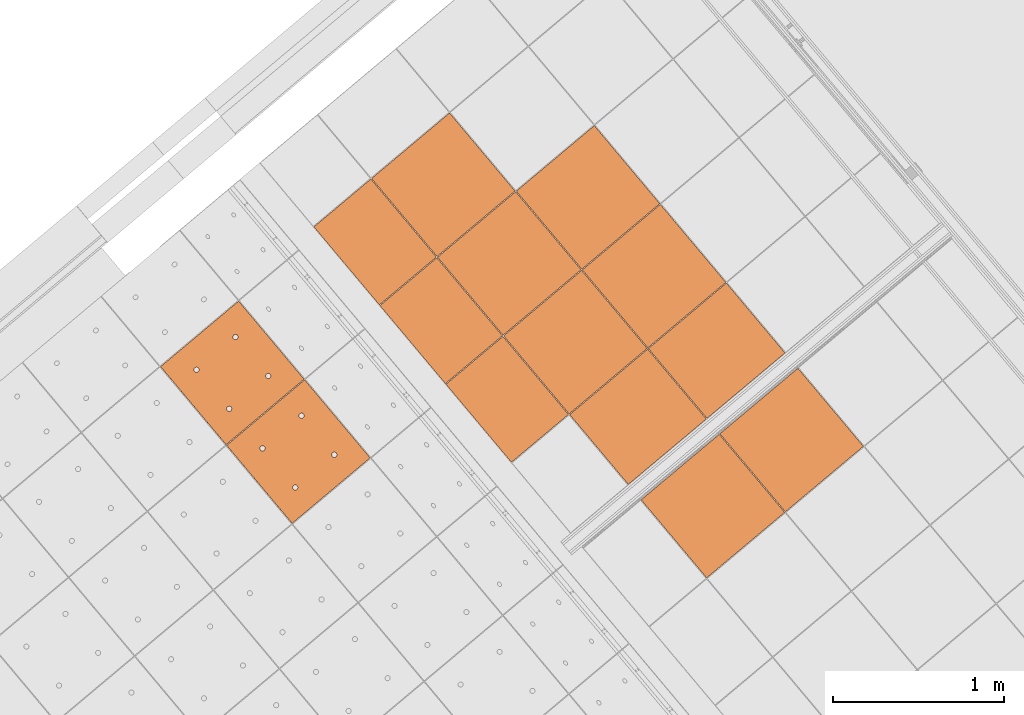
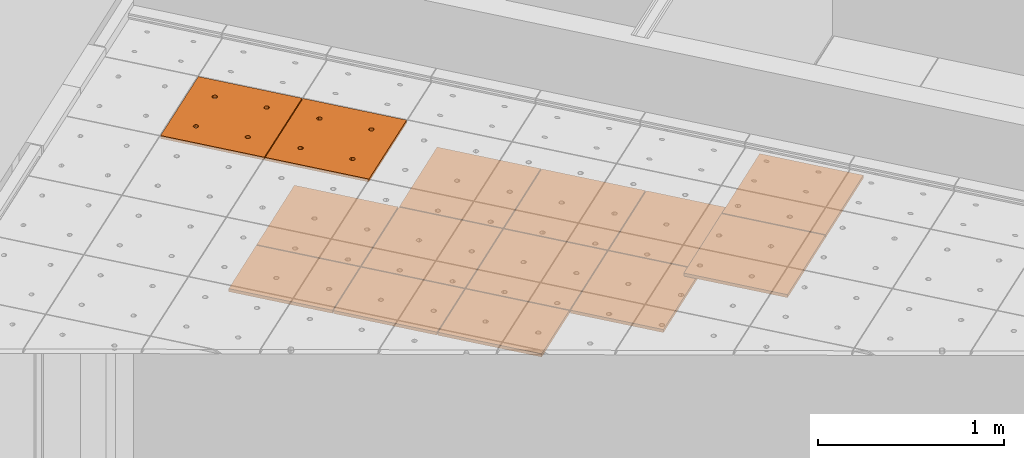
# One storey, part 178 of 338: 14 proxies, 3 elements without a shape of their own.
"""IFC2X3 building model written with IfcOpenShell, lengths in millimetres."""

from ifc_helpers import new_model, entity, si_unit, converted_unit, derived_unit, money_unit, direction, frame, origin_with_axes, place, context, subcontext, project, spatial, faceted_brep, source, transform, mapped, material, type_object, type_shapes, element, aggregate, save


model = new_model("IFC2X3")

# Units and contexts
model_context = context("Model", 3, precision=0.01, world=origin_with_axes(), true_north=direction((0.0, 1.0)))
plan_context = context("Plan", 3, precision=0.01, world=origin_with_axes(), true_north=direction((0.0, 1.0)))
body_context = subcontext(model_context, "Body", "Model", "MODEL_VIEW")
ifc_project = project(units=[si_unit("LENGTHUNIT", "METRE", prefix="MILLI"), si_unit("AREAUNIT", "SQUARE_METRE"), si_unit("VOLUMEUNIT", "CUBIC_METRE"), converted_unit("PLANEANGLEUNIT", "DEGREE", entity("IfcPlaneAngleMeasure", 0.0174532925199), si_unit("PLANEANGLEUNIT", "RADIAN"), dimensions=[0, 0, 0, 0, 0, 0, 0]), money_unit("EUR"), converted_unit("TIMEUNIT", "Year", entity("IfcTimeMeasure", 31556926.0), si_unit("TIMEUNIT", "SECOND"), dimensions=[0, 0, 1, 0, 0, 0, 0]), si_unit("MASSUNIT", "GRAM", prefix="KILO"), si_unit("THERMODYNAMICTEMPERATUREUNIT", "DEGREE_CELSIUS"), si_unit("LUMINOUSINTENSITYUNIT", "LUMEN"), si_unit("ENERGYUNIT", "JOULE", prefix="MEGA"), derived_unit("THERMALCONDUCTANCEUNIT", [(si_unit("POWERUNIT", "WATT"), 1), (si_unit("LENGTHUNIT", "METRE"), -1), (si_unit("THERMODYNAMICTEMPERATUREUNIT", "KELVIN"), -1)]), derived_unit("SPECIFICHEATCAPACITYUNIT", [(si_unit("ENERGYUNIT", "JOULE"), 1), (si_unit("MASSUNIT", "GRAM", prefix="KILO"), -1), (si_unit("THERMODYNAMICTEMPERATUREUNIT", "KELVIN"), -1)]), derived_unit("MASSDENSITYUNIT", [(si_unit("MASSUNIT", "GRAM", prefix="KILO"), 1), (si_unit("VOLUMEUNIT", "CUBIC_METRE"), -1)])], contexts=[model_context, plan_context])

# Site, building, storey
site_placement = place(None, origin_with_axes())
site = spatial("IfcSite", under=ifc_project, at=site_placement, Name="Fortuinstraat Woensdrecht", CompositionType="ELEMENT")
building_placement = place(site_placement, origin_with_axes())
building = spatial("IfcBuilding", under=site, at=building_placement, Name="IKC Fortuna", CompositionType="ELEMENT")
storey_placement = place(building_placement, origin_with_axes())
storey = spatial("IfcBuildingStorey", under=building, at=storey_placement, Name="00 begane grond", CompositionType="ELEMENT", Elevation=0.0)

# Covering, proxies
covering_type = type_object("IfcCoveringType", Name="Curtain Wall Type", PredefinedType="CEILING")
covering_1_placement = place(storey_placement, frame((13600.915258, 7795.68497331, 2810.0), z_axis=(0.0, 0.0, 1.0), x_axis=(1.0, 0.0, 0.0)))
covering_1 = element("IfcCovering", 1, at=covering_1_placement, inside=storey, type_object=covering_type, Name="45_Plafondafwerking_P02 gec", PredefinedType="CEILING")
ifc_material = material(Name="Gipsplaat")
building_element_proxy_type_1 = type_object("IfcBuildingElementProxyType", Name="Distinct Panel 600 x 600 x 20", PredefinedType="NOTDEFINED")
shared_shape_1 = source(origin_with_axes(), body_context, "Body", "Brep", [
    faceted_brep([(-597.499994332, 2.50000201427, -10.0), (-597.499994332, 2.50000201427, 10.0), (-597.499997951, 597.499994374, 10.0), (-597.499997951, 597.499994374, -10.0), (-2.50001005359, 2.49999600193, -10.0), (-2.50001005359, 2.49999600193, 10.0), (-2.49999596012, 597.499989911, 10.0), (-2.49999596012, 597.499989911, -10.0)], [[[0, 1, 2, 3]], [[4, 5, 1, 0]], [[1, 5, 6, 2]], [[3, 2, 6, 7]], [[0, 3, 7, 4]], [[7, 6, 5, 4]]]),
])
proxy_1_placement = place(covering_1_placement, frame((492.200975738, 1155.63411581, 0.0), z_axis=(0.0, 0.0, 1.0), x_axis=(1.0, 0.0, 0.0)))
proxy_1 = element("IfcBuildingElementProxy", 2, at=proxy_1_placement, type_object=building_element_proxy_type_1, material=ifc_material, Name="__Panel-D", context=body_context, shape_type="MappedRepresentation", body=[
    mapped(shared_shape_1, transform((-422.649621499, 36.9769853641, 0.0), x_axis=(-0.766044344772, -0.642787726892, 0.0), y_axis=(0.642787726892, -0.766044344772, 0.0), z_axis=(0.0, 0.0, 1.0))),
])
proxy_2_placement = place(covering_1_placement, frame((-353.09826726, 1229.58808654, 0.0), z_axis=(0.0, 0.0, 1.0), x_axis=(1.0, 0.0, 0.0)))
proxy_2 = element("IfcBuildingElementProxy", 3, at=proxy_2_placement, type_object=building_element_proxy_type_1, material=ifc_material, Name="__Panel-D", context=body_context, shape_type="MappedRepresentation", body=[
    mapped(shared_shape_1, transform((-422.649621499, 36.9769853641, 0.0), x_axis=(-0.766044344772, -0.642787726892, 0.0), y_axis=(0.642787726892, -0.766044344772, 0.0), z_axis=(0.0, 0.0, 1.0))),
])
proxy_3_placement = place(covering_1_placement, frame((-738.770903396, 1689.2146934, 0.0), z_axis=(0.0, 0.0, 1.0), x_axis=(1.0, 0.0, 0.0)))
proxy_3 = element("IfcBuildingElementProxy", 4, at=proxy_3_placement, type_object=building_element_proxy_type_1, material=ifc_material, Name="__Panel-D", context=body_context, shape_type="MappedRepresentation", body=[
    mapped(shared_shape_1, transform((-422.649621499, 36.9769853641, 0.0), x_axis=(-0.766044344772, -0.642787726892, 0.0), y_axis=(0.642787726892, -0.766044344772, 0.0), z_axis=(0.0, 0.0, 1.0))),
])
proxy_4_placement = place(covering_1_placement, frame((32.5743688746, 769.961479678, 0.0), z_axis=(0.0, 0.0, 1.0), x_axis=(1.0, 0.0, 0.0)))
proxy_4 = element("IfcBuildingElementProxy", 5, at=proxy_4_placement, type_object=building_element_proxy_type_1, material=ifc_material, Name="__Panel-D", context=body_context, shape_type="MappedRepresentation", body=[
    mapped(shared_shape_1, transform((-422.649621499, 36.9769853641, 0.0), x_axis=(-0.766044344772, -0.642787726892, 0.0), y_axis=(0.642787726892, -0.766044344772, 0.0), z_axis=(0.0, 0.0, 1.0))),
])
building_element_proxy_type_2 = type_object("IfcBuildingElementProxyType", Name="Distinct Panel 600 x 538 x 20", PredefinedType="NOTDEFINED")
shared_shape_2 = source(origin_with_axes(), body_context, "Body", "Brep", [
    faceted_brep([(-597.499999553, 2.49999714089, -10.0), (-597.499999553, 2.49999714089, 10.0), (-597.499998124, 535.272449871, 10.0), (-597.499998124, 535.272449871, -10.0), (-2.49999529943, 2.49999115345, -10.0), (-2.49999529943, 2.49999115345, 10.0), (-2.50000304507, 535.272451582, 10.0), (-2.50000304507, 535.272451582, -10.0)], [[[0, 1, 2, 3]], [[4, 5, 1, 0]], [[1, 5, 6, 2]], [[3, 2, 6, 7]], [[0, 3, 7, 4]], [[7, 6, 5, 4]]]),
])
type_shapes(building_element_proxy_type_2, [shared_shape_2])
proxy_5_placement = place(covering_1_placement, frame((857.874061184, 719.842037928, 0.0), z_axis=(0.0, 0.0, 1.0), x_axis=(1.0, 0.0, 0.0)))
proxy_5 = element("IfcBuildingElementProxy", 6, at=proxy_5_placement, type_object=building_element_proxy_type_2, material=ifc_material, Name="__Panel-D", context=body_context, shape_type="MappedRepresentation", body=[
    mapped(shared_shape_2, transform((-402.650070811, 13.1424563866, 0.0), x_axis=(-0.766044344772, -0.642787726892, 0.0), y_axis=(0.642787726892, -0.766044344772, 0.0), z_axis=(0.0, 0.0, 1.0))),
])
proxy_6_placement = place(covering_1_placement, frame((398.247455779, 334.169400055, 0.0), z_axis=(0.0, 0.0, 1.0), x_axis=(1.0, 0.0, 0.0)))
proxy_6 = element("IfcBuildingElementProxy", 7, at=proxy_6_placement, type_object=building_element_proxy_type_2, material=ifc_material, Name="__Panel-D", context=body_context, shape_type="MappedRepresentation", body=[
    mapped(shared_shape_2, transform((-402.650072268, 13.1424581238, 0.0), x_axis=(-0.766044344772, -0.642787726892, 0.0), y_axis=(0.642787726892, -0.766044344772, 0.0), z_axis=(0.0, 0.0, 1.0))),
])
building_element_proxy_type_3 = type_object("IfcBuildingElementProxyType", Name="Distinct Panel 440 x 600 x 20", PredefinedType="NOTDEFINED")
shared_shape_3 = source(origin_with_axes(), body_context, "Body", "Brep", [
    faceted_brep([(-597.49999798, 2.49998182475, -10.0), (-597.49999798, 2.49998182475, 10.0), (-597.499996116, 597.500003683, 10.0), (-597.499996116, 597.500003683, -10.0), (-162.749596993, 2.49999117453, -10.0), (-162.749596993, 2.49999117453, 10.0), (-162.749602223, 597.500004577, 10.0), (-162.749602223, 597.500004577, -10.0)], [[[0, 1, 2, 3]], [[4, 5, 1, 0]], [[1, 5, 6, 2]], [[3, 2, 6, 7]], [[0, 3, 7, 4]], [[7, 6, 5, 4]]]),
])
proxy_7_placement = place(covering_1_placement, frame((-365.673088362, 435.79208136, 0.0), z_axis=(0.0, 0.0, 1.0), x_axis=(1.0, 0.0, 0.0)))
proxy_7 = element("IfcBuildingElementProxy", 8, at=proxy_7_placement, type_object=building_element_proxy_type_3, material=ifc_material, Name="__Panel-D", context=body_context, shape_type="MappedRepresentation", body=[
    mapped(shared_shape_3, transform((-484.028771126, -14.5262524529, 0.0), x_axis=(-0.766044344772, -0.642787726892, 0.0), y_axis=(0.642787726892, -0.766044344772, 0.0), z_axis=(0.0, 0.0, 1.0))),
])
proxy_8_placement = place(covering_1_placement, frame((-1137.01836063, 1355.04529509, 0.0), z_axis=(0.0, 0.0, 1.0), x_axis=(1.0, 0.0, 0.0)))
proxy_8 = element("IfcBuildingElementProxy", 9, at=proxy_8_placement, type_object=building_element_proxy_type_3, material=ifc_material, Name="__Panel-D", context=body_context, shape_type="MappedRepresentation", body=[
    mapped(shared_shape_3, transform((-484.028771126, -14.5262524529, 0.0), x_axis=(-0.766044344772, -0.642787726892, 0.0), y_axis=(0.642787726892, -0.766044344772, 0.0), z_axis=(0.0, 0.0, 1.0))),
])
shared_shape_4 = source(origin_with_axes(), body_context, "Body", "Brep", [
    faceted_brep([(-597.499994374, 2.50000204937, -10.0), (-597.499994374, 2.50000204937, 10.0), (-597.499989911, 597.50000404, 10.0), (-597.499989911, 597.50000404, -10.0), (-2.50000201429, 2.50000566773, -10.0), (-2.50000201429, 2.50000566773, 10.0), (-2.49999600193, 597.499989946, 10.0), (-2.49999600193, 597.499989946, -10.0)], [[[0, 1, 2, 3]], [[4, 5, 1, 0]], [[1, 5, 6, 2]], [[3, 2, 6, 7]], [[0, 3, 7, 4]], [[7, 6, 5, 4]]]),
])
proxy_9_placement = place(covering_1_placement, frame((106.528339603, 1615.26072268, 0.0), z_axis=(0.0, 0.0, 1.0), x_axis=(1.0, 0.0, 0.0)))
proxy_9 = element("IfcBuildingElementProxy", 10, at=proxy_9_placement, type_object=building_element_proxy_type_1, material=ifc_material, Name="__Panel-D", context=body_context, shape_type="MappedRepresentation", body=[
    mapped(shared_shape_4, transform((-422.649621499, 36.9769853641, 0.0), x_axis=(-0.766044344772, -0.642787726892, 0.0), y_axis=(0.642787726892, -0.766044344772, 0.0), z_axis=(0.0, 0.0, 1.0))),
])
shared_shape_5 = source(origin_with_axes(), body_context, "Body", "Brep", [
    faceted_brep([(-597.500000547, 2.49998396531, -10.0), (-597.500000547, 2.49998396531, 10.0), (-597.499998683, 597.500004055, 10.0), (-597.499998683, 597.500004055, -10.0), (-162.749600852, 2.49999331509, -10.0), (-162.749600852, 2.49999331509, 10.0), (-162.749598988, 597.500013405, 10.0), (-162.749598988, 597.500013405, -10.0)], [[[0, 1, 2, 3]], [[4, 5, 1, 0]], [[1, 5, 6, 2]], [[3, 2, 6, 7]], [[0, 3, 7, 4]], [[7, 6, 5, 4]]]),
])
type_shapes(building_element_proxy_type_3, [shared_shape_3, shared_shape_5])
proxy_10_placement = place(covering_1_placement, frame((-751.345724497, 895.418688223, 0.0), z_axis=(0.0, 0.0, 1.0), x_axis=(1.0, 0.0, 0.0)))
proxy_10 = element("IfcBuildingElementProxy", 11, at=proxy_10_placement, type_object=building_element_proxy_type_3, material=ifc_material, Name="__Panel-D", context=body_context, shape_type="MappedRepresentation", body=[
    mapped(shared_shape_5, transform((-484.028771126, -14.5262524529, 0.0), x_axis=(-0.766044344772, -0.642787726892, 0.0), y_axis=(0.642787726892, -0.766044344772, 0.0), z_axis=(0.0, 0.0, 1.0))),
])
aggregate(covering_1, [proxy_5, proxy_6, proxy_7, proxy_9, proxy_1, proxy_8, proxy_2, proxy_3, proxy_4, proxy_10])

covering_2_placement = place(storey_placement, frame((15581.2998521, 5435.5548951, 3210.0), z_axis=(0.0, 0.0, 1.0), x_axis=(1.0, 0.0, 0.0)))
covering_2 = element("IfcCovering", 12, at=covering_2_placement, inside=storey, type_object=covering_type, Name="45_Plafondafwerking_P02 v", PredefinedType="CEILING")
shared_shape_6 = source(origin_with_axes(), body_context, "Body", "Brep", [
    faceted_brep([(-597.499994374, 2.50000204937, -10.0), (-597.499994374, 2.50000204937, 10.0), (-597.499989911, 597.50000404, 10.0), (-597.499989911, 597.50000404, -10.0), (-2.50000201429, 2.50000566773, -10.0), (-2.50000201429, 2.50000566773, 10.0), (-2.49999600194, 597.499989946, 10.0), (-2.49999600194, 597.499989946, -10.0)], [[[0, 1, 2, 3]], [[4, 5, 1, 0]], [[1, 5, 6, 2]], [[3, 2, 6, 7]], [[0, 3, 7, 4]], [[7, 6, 5, 4]]]),
])
type_shapes(building_element_proxy_type_1, [shared_shape_1, shared_shape_4, shared_shape_6])
proxy_11_placement = place(covering_2_placement, frame((-684.81664768, 2558.34832158, 0.0), z_axis=(0.0, 0.0, 1.0), x_axis=(1.0, 0.0, 0.0)))
proxy_11 = element("IfcBuildingElementProxy", 13, at=proxy_11_placement, type_object=building_element_proxy_type_1, material=ifc_material, Name="__Panel-D", context=body_context, shape_type="MappedRepresentation", body=[
    mapped(shared_shape_6, transform((-422.649621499, 36.9769853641, 0.0), x_axis=(-0.766044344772, -0.642787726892, 0.0), y_axis=(0.642787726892, -0.766044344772, 0.0), z_axis=(0.0, 0.0, 1.0))),
])
proxy_12_placement = place(covering_2_placement, frame((-1144.44325454, 2172.67568544, 0.0), z_axis=(0.0, 0.0, 1.0), x_axis=(1.0, 0.0, 0.0)))
proxy_12 = element("IfcBuildingElementProxy", 14, at=proxy_12_placement, type_object=building_element_proxy_type_1, material=ifc_material, Name="__Panel-D", context=body_context, shape_type="MappedRepresentation", body=[
    mapped(shared_shape_6, transform((-422.649621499, 36.9769853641, 0.0), x_axis=(-0.766044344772, -0.642787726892, 0.0), y_axis=(0.642787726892, -0.766044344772, 0.0), z_axis=(0.0, 0.0, 1.0))),
])
aggregate(covering_2, [proxy_11, proxy_12])

covering_3_placement = place(storey_placement, frame((15863.124366, 4456.31398675, 4619.99995334), z_axis=(0.0, 0.0, 1.0), x_axis=(1.0, 0.0, 0.0)))
covering_3 = element("IfcCovering", 15, at=covering_3_placement, inside=storey, type_object=covering_type, Name="45_Plafondafwerking_P01", PredefinedType="CEILING")
building_element_proxy_type_4 = type_object("IfcBuildingElementProxyType", Name="Main Panel 600 x 600 x 20", PredefinedType="NOTDEFINED")
shared_shape_7 = source(origin_with_axes(), body_context, "Body", "Brep", [
    faceted_brep([(2.50000262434, 2.50000269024, -10.0), (299.999999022, 2.50000269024, -10.0), (299.999999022, 2.50000269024, 10.0), (2.50000262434, 2.50000269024, 10.0), (2.50000262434, 300.000003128, -10.0), (2.50000262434, 597.500003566, -10.0), (299.999999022, 597.500003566, -10.0), (597.499995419, 597.500003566, -10.0), (597.499995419, 300.000003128, -10.0), (597.499995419, 2.50000269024, -10.0), (166.250000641, 450.062333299, -10.0), (165.794233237, 452.647118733, -10.0), (164.896546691, 455.113492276, -10.0), (163.584216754, 457.386514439, -10.0), (161.897117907, 459.397120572, -10.0), (159.886511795, 461.084219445, -10.0), (157.613489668, 462.396549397, -10.0), (155.147116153, 463.294235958, -10.0), (152.56233076, 463.750003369, -10.0), (149.937670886, 463.750003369, -10.0), (147.352885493, 463.294235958, -10.0), (144.886511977, 462.396549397, -10.0), (142.61348985, 461.084219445, -10.0), (140.602883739, 459.397120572, -10.0), (138.915784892, 457.386514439, -10.0), (137.603454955, 455.113492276, -10.0), (136.705768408, 452.647118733, -10.0), (136.250001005, 450.062333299, -10.0), (136.250001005, 448.750003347, -10.0), (136.250001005, 447.437673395, -10.0), (136.705768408, 444.852887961, -10.0), (137.603454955, 442.386514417, -10.0), (138.915784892, 440.113492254, -10.0), (140.602883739, 438.102886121, -10.0), (142.61348985, 436.415787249, -10.0), (144.886511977, 435.103457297, -10.0), (147.352885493, 434.205770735, -10.0), (149.937670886, 433.750003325, -10.0), (152.56233076, 433.750003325, -10.0), (155.147116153, 434.205770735, -10.0), (157.613489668, 435.103457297, -10.0), (159.886511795, 436.415787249, -10.0), (161.897117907, 438.102886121, -10.0), (163.584216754, 440.113492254, -10.0), (164.896546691, 442.386514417, -10.0), (165.794233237, 444.852887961, -10.0), (166.250000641, 447.437673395, -10.0), (463.749997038, 450.062333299, -10.0), (463.294229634, 452.647118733, -10.0), (462.396543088, 455.113492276, -10.0), (461.084213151, 457.386514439, -10.0), (459.397114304, 459.397120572, -10.0), (457.386508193, 461.084219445, -10.0), (455.113486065, 462.396549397, -10.0), (452.64711255, 463.294235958, -10.0), (450.062327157, 463.750003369, -10.0), (447.437667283, 463.750003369, -10.0), (444.85288189, 463.294235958, -10.0), (442.386508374, 462.396549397, -10.0), (440.113486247, 461.084219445, -10.0), (438.102880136, 459.397120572, -10.0), (436.415781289, 457.386514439, -10.0), (435.103451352, 455.113492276, -10.0), (434.205764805, 452.647118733, -10.0), (433.749997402, 450.062333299, -10.0), (433.749997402, 448.750003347, -10.0), (433.749997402, 447.437673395, -10.0), (434.205764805, 444.852887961, -10.0), (435.103451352, 442.386514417, -10.0), (436.415781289, 440.113492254, -10.0), (438.102880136, 438.102886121, -10.0), (440.113486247, 436.415787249, -10.0), (442.386508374, 435.103457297, -10.0), (444.85288189, 434.205770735, -10.0), (447.437667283, 433.750003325, -10.0), (450.062327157, 433.750003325, -10.0), (452.64711255, 434.205770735, -10.0), (455.113486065, 435.103457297, -10.0), (457.386508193, 436.415787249, -10.0), (459.397114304, 438.102886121, -10.0), (461.084213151, 440.113492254, -10.0), (462.396543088, 442.386514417, -10.0), (463.294229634, 444.852887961, -10.0), (463.749997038, 447.437673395, -10.0), (463.749997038, 152.562332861, -10.0), (463.294229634, 155.147118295, -10.0), (462.396543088, 157.613491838, -10.0), (461.084213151, 159.886514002, -10.0), (459.397114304, 161.897120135, -10.0), (457.386508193, 163.584219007, -10.0), (455.113486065, 164.896548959, -10.0), (452.64711255, 165.79423552, -10.0), (450.062327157, 166.250002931, -10.0), (447.437667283, 166.250002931, -10.0), (444.85288189, 165.79423552, -10.0), (442.386508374, 164.896548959, -10.0), (440.113486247, 163.584219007, -10.0), (438.102880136, 161.897120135, -10.0), (436.415781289, 159.886514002, -10.0), (435.103451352, 157.613491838, -10.0), (434.205764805, 155.147118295, -10.0), (433.749997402, 152.562332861, -10.0), (433.749997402, 151.250002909, -10.0), (433.749997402, 149.937672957, -10.0), (434.205764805, 147.352887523, -10.0), (435.103451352, 144.88651398, -10.0), (436.415781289, 142.613491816, -10.0), (438.102880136, 140.602885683, -10.0), (440.113486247, 138.915786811, -10.0), (442.386508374, 137.603456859, -10.0), (444.85288189, 136.705770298, -10.0), (447.437667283, 136.250002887, -10.0), (450.062327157, 136.250002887, -10.0), (452.64711255, 136.705770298, -10.0), (455.113486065, 137.603456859, -10.0), (457.386508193, 138.915786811, -10.0), (459.397114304, 140.602885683, -10.0), (461.084213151, 142.613491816, -10.0), (462.396543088, 144.88651398, -10.0), (463.294229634, 147.352887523, -10.0), (463.749997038, 149.937672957, -10.0), (166.250000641, 152.562332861, -10.0), (165.794233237, 155.147118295, -10.0), (164.896546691, 157.613491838, -10.0), (163.584216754, 159.886514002, -10.0), (161.897117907, 161.897120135, -10.0), (159.886511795, 163.584219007, -10.0), (157.613489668, 164.896548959, -10.0), (155.147116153, 165.79423552, -10.0), (152.56233076, 166.250002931, -10.0), (149.937670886, 166.250002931, -10.0), (147.352885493, 165.79423552, -10.0), (144.886511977, 164.896548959, -10.0), (142.61348985, 163.584219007, -10.0), (140.602883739, 161.897120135, -10.0), (138.915784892, 159.886514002, -10.0), (137.603454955, 157.613491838, -10.0), (136.705768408, 155.147118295, -10.0), (136.250001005, 152.562332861, -10.0), (136.250001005, 151.250002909, -10.0), (136.250001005, 149.937672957, -10.0), (136.705768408, 147.352887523, -10.0), (137.603454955, 144.88651398, -10.0), (138.915784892, 142.613491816, -10.0), (140.602883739, 140.602885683, -10.0), (142.61348985, 138.915786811, -10.0), (144.886511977, 137.603456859, -10.0), (147.352885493, 136.705770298, -10.0), (149.937670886, 136.250002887, -10.0), (152.56233076, 136.250002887, -10.0), (155.147116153, 136.705770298, -10.0), (157.613489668, 137.603456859, -10.0), (159.886511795, 138.915786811, -10.0), (161.897117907, 140.602885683, -10.0), (163.584216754, 142.613491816, -10.0), (164.896546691, 144.88651398, -10.0), (165.794233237, 147.352887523, -10.0), (166.250000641, 149.937672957, -10.0), (597.499995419, 2.50000269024, 10.0), (597.499995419, 300.000003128, 10.0), (597.499995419, 597.500003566, 10.0), (299.999999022, 597.500003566, 10.0), (2.50000262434, 597.500003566, 10.0), (2.50000262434, 300.000003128, 10.0), (166.250000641, 450.062333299, 10.0), (166.250000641, 447.437673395, 10.0), (165.794233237, 444.852887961, 10.0), (164.896546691, 442.386514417, 10.0), (163.584216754, 440.113492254, 10.0), (161.897117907, 438.102886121, 10.0), (159.886511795, 436.415787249, 10.0), (157.613489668, 435.103457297, 10.0), (155.147116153, 434.205770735, 10.0), (152.56233076, 433.750003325, 10.0), (149.937670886, 433.750003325, 10.0), (147.352885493, 434.205770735, 10.0), (144.886511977, 435.103457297, 10.0), (142.61348985, 436.415787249, 10.0), (140.602883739, 438.102886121, 10.0), (138.915784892, 440.113492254, 10.0), (137.603454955, 442.386514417, 10.0), (136.705768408, 444.852887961, 10.0), (136.250001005, 447.437673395, 10.0), (136.250001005, 448.750003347, 10.0), (136.250001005, 450.062333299, 10.0), (136.705768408, 452.647118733, 10.0), (137.603454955, 455.113492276, 10.0), (138.915784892, 457.386514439, 10.0), (140.602883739, 459.397120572, 10.0), (142.61348985, 461.084219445, 10.0), (144.886511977, 462.396549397, 10.0), (147.352885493, 463.294235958, 10.0), (149.937670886, 463.750003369, 10.0), (152.56233076, 463.750003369, 10.0), (155.147116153, 463.294235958, 10.0), (157.613489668, 462.396549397, 10.0), (159.886511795, 461.084219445, 10.0), (161.897117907, 459.397120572, 10.0), (163.584216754, 457.386514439, 10.0), (164.896546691, 455.113492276, 10.0), (165.794233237, 452.647118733, 10.0), (463.749997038, 450.062333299, 10.0), (463.749997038, 447.437673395, 10.0), (463.294229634, 444.852887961, 10.0), (462.396543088, 442.386514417, 10.0), (461.084213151, 440.113492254, 10.0), (459.397114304, 438.102886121, 10.0), (457.386508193, 436.415787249, 10.0), (455.113486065, 435.103457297, 10.0), (452.64711255, 434.205770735, 10.0), (450.062327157, 433.750003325, 10.0), (447.437667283, 433.750003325, 10.0), (444.85288189, 434.205770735, 10.0), (442.386508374, 435.103457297, 10.0), (440.113486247, 436.415787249, 10.0), (438.102880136, 438.102886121, 10.0), (436.415781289, 440.113492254, 10.0), (435.103451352, 442.386514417, 10.0), (434.205764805, 444.852887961, 10.0), (433.749997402, 447.437673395, 10.0), (433.749997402, 448.750003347, 10.0), (433.749997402, 450.062333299, 10.0), (434.205764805, 452.647118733, 10.0), (435.103451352, 455.113492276, 10.0), (436.415781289, 457.386514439, 10.0), (438.102880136, 459.397120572, 10.0), (440.113486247, 461.084219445, 10.0), (442.386508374, 462.396549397, 10.0), (444.85288189, 463.294235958, 10.0), (447.437667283, 463.750003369, 10.0), (450.062327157, 463.750003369, 10.0), (452.64711255, 463.294235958, 10.0), (455.113486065, 462.396549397, 10.0), (457.386508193, 461.084219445, 10.0), (459.397114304, 459.397120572, 10.0), (461.084213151, 457.386514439, 10.0), (462.396543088, 455.113492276, 10.0), (463.294229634, 452.647118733, 10.0), (463.749997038, 152.562332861, 10.0), (463.749997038, 149.937672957, 10.0), (463.294229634, 147.352887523, 10.0), (462.396543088, 144.88651398, 10.0), (461.084213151, 142.613491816, 10.0), (459.397114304, 140.602885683, 10.0), (457.386508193, 138.915786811, 10.0), (455.113486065, 137.603456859, 10.0), (452.64711255, 136.705770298, 10.0), (450.062327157, 136.250002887, 10.0), (447.437667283, 136.250002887, 10.0), (444.85288189, 136.705770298, 10.0), (442.386508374, 137.603456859, 10.0), (440.113486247, 138.915786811, 10.0), (438.102880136, 140.602885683, 10.0), (436.415781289, 142.613491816, 10.0), (435.103451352, 144.88651398, 10.0), (434.205764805, 147.352887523, 10.0), (433.749997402, 149.937672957, 10.0), (433.749997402, 151.250002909, 10.0), (433.749997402, 152.562332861, 10.0), (434.205764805, 155.147118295, 10.0), (435.103451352, 157.613491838, 10.0), (436.415781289, 159.886514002, 10.0), (438.102880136, 161.897120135, 10.0), (440.113486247, 163.584219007, 10.0), (442.386508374, 164.896548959, 10.0), (444.85288189, 165.79423552, 10.0), (447.437667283, 166.250002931, 10.0), (450.062327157, 166.250002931, 10.0), (452.64711255, 165.79423552, 10.0), (455.113486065, 164.896548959, 10.0), (457.386508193, 163.584219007, 10.0), (459.397114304, 161.897120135, 10.0), (461.084213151, 159.886514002, 10.0), (462.396543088, 157.613491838, 10.0), (463.294229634, 155.147118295, 10.0), (166.250000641, 152.562332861, 10.0), (166.250000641, 149.937672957, 10.0), (165.794233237, 147.352887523, 10.0), (164.896546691, 144.88651398, 10.0), (163.584216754, 142.613491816, 10.0), (161.897117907, 140.602885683, 10.0), (159.886511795, 138.915786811, 10.0), (157.613489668, 137.603456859, 10.0), (155.147116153, 136.705770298, 10.0), (152.56233076, 136.250002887, 10.0), (149.937670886, 136.250002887, 10.0), (147.352885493, 136.705770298, 10.0), (144.886511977, 137.603456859, 10.0), (142.61348985, 138.915786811, 10.0), (140.602883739, 140.602885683, 10.0), (138.915784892, 142.613491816, 10.0), (137.603454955, 144.88651398, 10.0), (136.705768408, 147.352887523, 10.0), (136.250001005, 149.937672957, 10.0), (136.250001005, 151.250002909, 10.0), (136.250001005, 152.562332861, 10.0), (136.705768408, 155.147118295, 10.0), (137.603454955, 157.613491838, 10.0), (138.915784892, 159.886514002, 10.0), (140.602883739, 161.897120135, 10.0), (142.61348985, 163.584219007, 10.0), (144.886511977, 164.896548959, 10.0), (147.352885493, 165.79423552, 10.0), (149.937670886, 166.250002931, 10.0), (152.56233076, 166.250002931, 10.0), (155.147116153, 165.79423552, 10.0), (157.613489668, 164.896548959, 10.0), (159.886511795, 163.584219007, 10.0), (161.897117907, 161.897120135, 10.0), (163.584216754, 159.886514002, 10.0), (164.896546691, 157.613491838, 10.0), (165.794233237, 155.147118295, 10.0)], [[[0, 1, 2, 3]], [[0, 4, 5, 6, 7, 8, 9, 1], [10, 11, 12, 13, 14, 15, 16, 17, 18, 19, 20, 21, 22, 23, 24, 25, 26, 27, 28, 29, 30, 31, 32, 33, 34, 35, 36, 37, 38, 39, 40, 41, 42, 43, 44, 45, 46], [47, 48, 49, 50, 51, 52, 53, 54, 55, 56, 57, 58, 59, 60, 61, 62, 63, 64, 65, 66, 67, 68, 69, 70, 71, 72, 73, 74, 75, 76, 77, 78, 79, 80, 81, 82, 83], [84, 85, 86, 87, 88, 89, 90, 91, 92, 93, 94, 95, 96, 97, 98, 99, 100, 101, 102, 103, 104, 105, 106, 107, 108, 109, 110, 111, 112, 113, 114, 115, 116, 117, 118, 119, 120], [121, 122, 123, 124, 125, 126, 127, 128, 129, 130, 131, 132, 133, 134, 135, 136, 137, 138, 139, 140, 141, 142, 143, 144, 145, 146, 147, 148, 149, 150, 151, 152, 153, 154, 155, 156, 157]], [[1, 9, 158, 2]], [[3, 2, 158, 159, 160, 161, 162, 163], [164, 165, 166, 167, 168, 169, 170, 171, 172, 173, 174, 175, 176, 177, 178, 179, 180, 181, 182, 183, 184, 185, 186, 187, 188, 189, 190, 191, 192, 193, 194, 195, 196, 197, 198, 199, 200], [201, 202, 203, 204, 205, 206, 207, 208, 209, 210, 211, 212, 213, 214, 215, 216, 217, 218, 219, 220, 221, 222, 223, 224, 225, 226, 227, 228, 229, 230, 231, 232, 233, 234, 235, 236, 237], [238, 239, 240, 241, 242, 243, 244, 245, 246, 247, 248, 249, 250, 251, 252, 253, 254, 255, 256, 257, 258, 259, 260, 261, 262, 263, 264, 265, 266, 267, 268, 269, 270, 271, 272, 273, 274], [275, 276, 277, 278, 279, 280, 281, 282, 283, 284, 285, 286, 287, 288, 289, 290, 291, 292, 293, 294, 295, 296, 297, 298, 299, 300, 301, 302, 303, 304, 305, 306, 307, 308, 309, 310, 311]], [[4, 0, 3, 163]], [[5, 4, 163, 162]], [[6, 5, 162, 161]], [[7, 6, 161, 160]], [[8, 7, 160, 159]], [[9, 8, 159, 158]], [[11, 10, 164, 200]], [[12, 11, 200, 199]], [[13, 12, 199, 198]], [[14, 13, 198, 197]], [[15, 14, 197, 196]], [[16, 15, 196, 195]], [[17, 16, 195, 194]], [[18, 17, 194, 193]], [[19, 18, 193, 192]], [[20, 19, 192, 191]], [[21, 20, 191, 190]], [[22, 21, 190, 189]], [[23, 22, 189, 188]], [[24, 23, 188, 187]], [[25, 24, 187, 186]], [[26, 25, 186, 185]], [[27, 26, 185, 184]], [[28, 27, 184, 183]], [[29, 28, 183, 182]], [[30, 29, 182, 181]], [[31, 30, 181, 180]], [[32, 31, 180, 179]], [[33, 32, 179, 178]], [[34, 33, 178, 177]], [[35, 34, 177, 176]], [[36, 35, 176, 175]], [[37, 36, 175, 174]], [[38, 37, 174, 173]], [[39, 38, 173, 172]], [[40, 39, 172, 171]], [[41, 40, 171, 170]], [[42, 41, 170, 169]], [[43, 42, 169, 168]], [[44, 43, 168, 167]], [[45, 44, 167, 166]], [[46, 45, 166, 165]], [[10, 46, 165, 164]], [[48, 47, 201, 237]], [[49, 48, 237, 236]], [[50, 49, 236, 235]], [[51, 50, 235, 234]], [[52, 51, 234, 233]], [[53, 52, 233, 232]], [[54, 53, 232, 231]], [[55, 54, 231, 230]], [[56, 55, 230, 229]], [[57, 56, 229, 228]], [[58, 57, 228, 227]], [[59, 58, 227, 226]], [[60, 59, 226, 225]], [[61, 60, 225, 224]], [[62, 61, 224, 223]], [[63, 62, 223, 222]], [[64, 63, 222, 221]], [[65, 64, 221, 220]], [[66, 65, 220, 219]], [[67, 66, 219, 218]], [[68, 67, 218, 217]], [[69, 68, 217, 216]], [[70, 69, 216, 215]], [[71, 70, 215, 214]], [[72, 71, 214, 213]], [[73, 72, 213, 212]], [[74, 73, 212, 211]], [[75, 74, 211, 210]], [[76, 75, 210, 209]], [[77, 76, 209, 208]], [[78, 77, 208, 207]], [[79, 78, 207, 206]], [[80, 79, 206, 205]], [[81, 80, 205, 204]], [[82, 81, 204, 203]], [[83, 82, 203, 202]], [[47, 83, 202, 201]], [[85, 84, 238, 274]], [[86, 85, 274, 273]], [[87, 86, 273, 272]], [[88, 87, 272, 271]], [[89, 88, 271, 270]], [[90, 89, 270, 269]], [[91, 90, 269, 268]], [[92, 91, 268, 267]], [[93, 92, 267, 266]], [[94, 93, 266, 265]], [[95, 94, 265, 264]], [[96, 95, 264, 263]], [[97, 96, 263, 262]], [[98, 97, 262, 261]], [[99, 98, 261, 260]], [[100, 99, 260, 259]], [[101, 100, 259, 258]], [[102, 101, 258, 257]], [[103, 102, 257, 256]], [[104, 103, 256, 255]], [[105, 104, 255, 254]], [[106, 105, 254, 253]], [[107, 106, 253, 252]], [[108, 107, 252, 251]], [[109, 108, 251, 250]], [[110, 109, 250, 249]], [[111, 110, 249, 248]], [[112, 111, 248, 247]], [[113, 112, 247, 246]], [[114, 113, 246, 245]], [[115, 114, 245, 244]], [[116, 115, 244, 243]], [[117, 116, 243, 242]], [[118, 117, 242, 241]], [[119, 118, 241, 240]], [[120, 119, 240, 239]], [[84, 120, 239, 238]], [[122, 121, 275, 311]], [[123, 122, 311, 310]], [[124, 123, 310, 309]], [[125, 124, 309, 308]], [[126, 125, 308, 307]], [[127, 126, 307, 306]], [[128, 127, 306, 305]], [[129, 128, 305, 304]], [[130, 129, 304, 303]], [[131, 130, 303, 302]], [[132, 131, 302, 301]], [[133, 132, 301, 300]], [[134, 133, 300, 299]], [[135, 134, 299, 298]], [[136, 135, 298, 297]], [[137, 136, 297, 296]], [[138, 137, 296, 295]], [[139, 138, 295, 294]], [[140, 139, 294, 293]], [[141, 140, 293, 292]], [[142, 141, 292, 291]], [[143, 142, 291, 290]], [[144, 143, 290, 289]], [[145, 144, 289, 288]], [[146, 145, 288, 287]], [[147, 146, 287, 286]], [[148, 147, 286, 285]], [[149, 148, 285, 284]], [[150, 149, 284, 283]], [[151, 150, 283, 282]], [[152, 151, 282, 281]], [[153, 152, 281, 280]], [[154, 153, 280, 279]], [[155, 154, 279, 278]], [[156, 155, 278, 277]], [[157, 156, 277, 276]], [[121, 157, 276, 275]]]),
])
type_shapes(building_element_proxy_type_4, [shared_shape_7])
proxy_13_placement = place(covering_3_placement, frame((-4233.02101497, 3929.74804586, 3.78777225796), z_axis=(0.0, 0.0, 1.0), x_axis=(0.642787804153, -0.766044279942, 0.0)))
proxy_13 = element("IfcBuildingElementProxy", 16, at=proxy_13_placement, type_object=building_element_proxy_type_4, material=ifc_material, Name="__600x945 Rockfon Krios", context=body_context, shape_type="MappedRepresentation", body=[
    mapped(shared_shape_7, transform((-300.0, 299.995617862, -1.62150043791), x_axis=(0.0, -0.999985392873, 0.00540500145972), y_axis=(1.0, 0.0, 0.0), z_axis=(0.0, 0.00540500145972, 0.999985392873))),
])
proxy_14_placement = place(covering_3_placement, frame((-3847.34833248, 3470.1214779, 3.78777225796), z_axis=(0.0, 0.0, 1.0), x_axis=(0.642787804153, -0.766044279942, 0.0)))
proxy_14 = element("IfcBuildingElementProxy", 17, at=proxy_14_placement, type_object=building_element_proxy_type_4, material=ifc_material, Name="__600x958 Rockfon Krios", context=body_context, shape_type="MappedRepresentation", body=[
    mapped(shared_shape_7, transform((-300.0, 299.995617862, -1.62150043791), x_axis=(0.0, -0.999985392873, 0.00540500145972), y_axis=(1.0, 0.0, 0.0), z_axis=(0.0, 0.00540500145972, 0.999985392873))),
])
aggregate(covering_3, [proxy_13, proxy_14])

save(model, "model.ifc")
